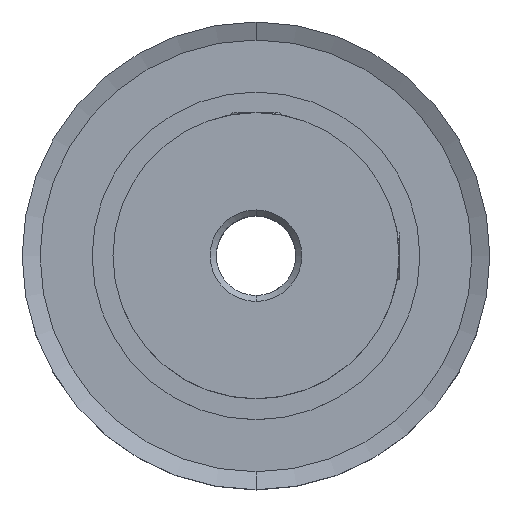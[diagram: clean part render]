
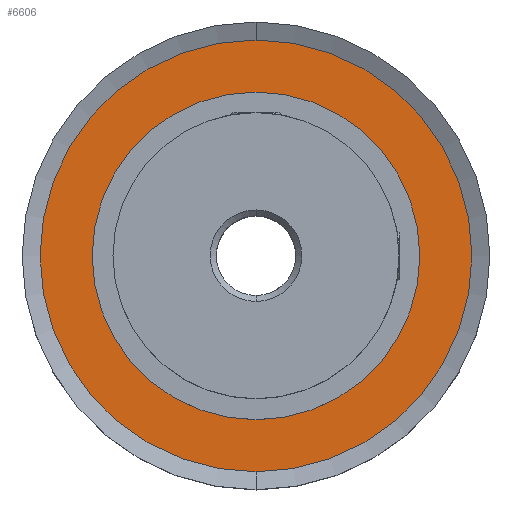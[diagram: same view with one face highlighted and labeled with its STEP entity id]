
A CAD part, top view. The second image highlights one B-rep face of the part: STEP entity #6606.
In plain terms, the highlighted planar face has unit normal (0, 0, 1).
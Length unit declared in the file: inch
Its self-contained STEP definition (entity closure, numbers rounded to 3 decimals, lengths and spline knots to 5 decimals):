
#522=CARTESIAN_POINT('',(0.,0.,-0.018));
#523=DIRECTION('',(0.,0.,-1.));
#524=DIRECTION('',(1.,0.,0.));
#525=AXIS2_PLACEMENT_3D('',#522,#523,#524);
#531=CARTESIAN_POINT('',(0.,0.,-0.018));
#532=DIRECTION('',(0.,0.,1.));
#533=DIRECTION('',(0.,1.,0.));
#534=AXIS2_PLACEMENT_3D('',#531,#532,#533);
#536=CARTESIAN_POINT('',(0.,0.,-0.018));
#537=DIRECTION('',(0.,0.,-1.));
#538=DIRECTION('',(0.,1.,0.));
#539=AXIS2_PLACEMENT_3D('',#536,#537,#538);
#4672=CARTESIAN_POINT('',(0.,0.,-0.018));
#4673=DIRECTION('',(0.,0.,-1.));
#4674=DIRECTION('',(-1.,0.,0.));
#4675=AXIS2_PLACEMENT_3D('',#4672,#4673,#4674);
#5668=CARTESIAN_POINT('',(0.,0.51,-0.018));
#5669=VERTEX_POINT('',#5668);
#5674=CARTESIAN_POINT('',(0.,-0.51,-0.018));
#5675=VERTEX_POINT('',#5674);
#5752=CARTESIAN_POINT('',(0.387,0.,-0.018));
#5753=CARTESIAN_POINT('',(-0.387,0.,-0.018));
#5754=VERTEX_POINT('',#5752);
#5755=VERTEX_POINT('',#5753);
#6590=CARTESIAN_POINT('',(0.,0.,-0.018));
#6591=DIRECTION('',(0.,0.,-1.));
#6592=DIRECTION('',(0.,-1.,0.));
#6593=AXIS2_PLACEMENT_3D('',#6590,#6591,#6592);
#6594=PLANE('',#6593);
#6596=ORIENTED_EDGE('',*,*,#6595,.F.);
#6598=ORIENTED_EDGE('',*,*,#6597,.T.);
#6599=EDGE_LOOP('',(#6596,#6598));
#6600=FACE_OUTER_BOUND('',#6599,.F.);
#6601=ORIENTED_EDGE('',*,*,#6580,.F.);
#6603=ORIENTED_EDGE('',*,*,#6602,.F.);
#6604=EDGE_LOOP('',(#6601,#6603));
#6605=FACE_BOUND('',#6604,.F.);
#6606=ADVANCED_FACE('',(#6600,#6605),#6594,.F.);
#526=CIRCLE('',#525,0.387);
#535=CIRCLE('',#534,0.51);
#540=CIRCLE('',#539,0.51);
#4676=CIRCLE('',#4675,0.387);
#6580=EDGE_CURVE('',#5754,#5755,#526,.T.);
#6595=EDGE_CURVE('',#5669,#5675,#535,.T.);
#6597=EDGE_CURVE('',#5669,#5675,#540,.T.);
#6602=EDGE_CURVE('',#5755,#5754,#4676,.T.);
